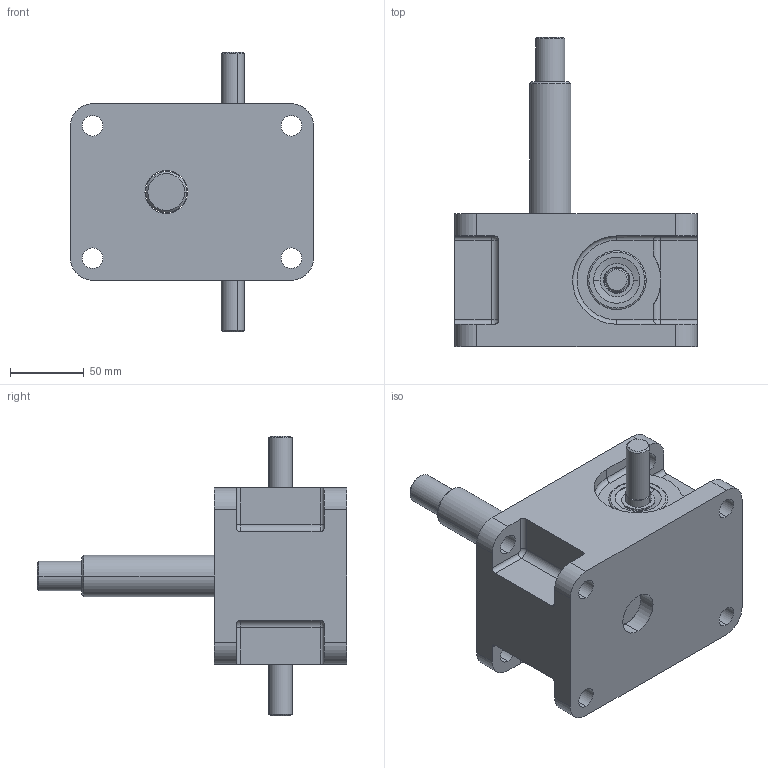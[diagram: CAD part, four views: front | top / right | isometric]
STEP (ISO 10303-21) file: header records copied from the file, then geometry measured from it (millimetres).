
FILE_DESCRIPTION (( 'STEP AP203' ), '1' );
FILE_NAME ('LMR2.5.STEP', '2008-07-31T00:16:47', ( 'Cliente' ), ( 'Home' ), 'SwSTEP 2.0', 'SolidWorks 2008', '' );
FILE_SCHEMA (( 'CONFIG_CONTROL_DESIGN' ));
Length unit declared in the file: millimetre
Products named in the file (5): Taper Roller Bearing_DIN_DIN 720 - 30203 - 12,SI,NC,12; sem_fim_Valor predeterminado; LMR2.5; carcaça_Valor predeterminado; fuso_Valor predeterminado
Assembly tree (5 placements, depth 2):
  LMR2.5
    sem_fim_Valor predeterminado
    fuso_Valor predeterminado
    Taper Roller Bearing_DIN_DIN 720 - 30203 - 12,SI,NC,12  x2
    carcaça_Valor predeterminado
Bounding box: 165 x 210 x 190 mm (x, y, z)
Volume: 1527143.3 mm3; surface area: 161566.8 mm2
Topology: 5 solids, 5 shells, 204 faces, 470 edges, 287 vertices
Faces by surface type: cylinder 90, cone 50, plane 45, torus 19
Entity records: 5579 total; most frequent: DIRECTION 952, CARTESIAN_POINT 936, ORIENTED_EDGE 800, EDGE_CURVE 400, AXIS2_PLACEMENT_3D 383, VERTEX_POINT 247, CIRCLE 206, EDGE_LOOP 199
